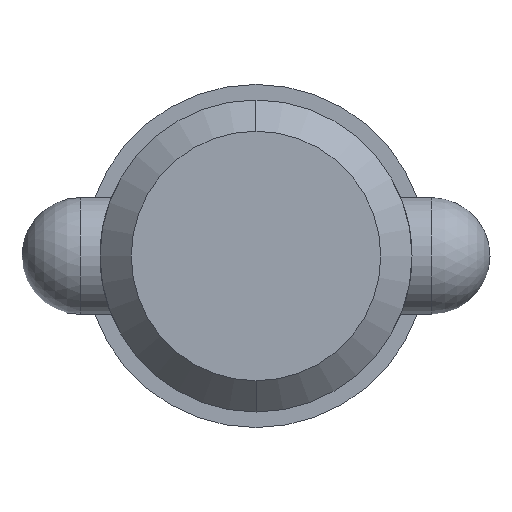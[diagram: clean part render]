
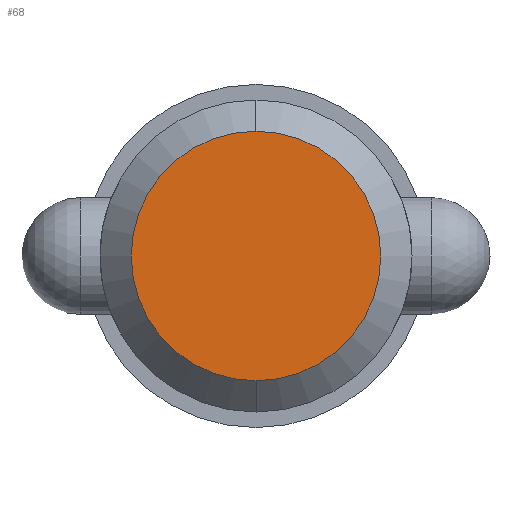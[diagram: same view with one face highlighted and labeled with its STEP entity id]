
A CAD part, left-side view. The second image highlights one B-rep face of the part: STEP entity #68.
In plain terms, the highlighted planar face has unit normal (-1, 0, 0).
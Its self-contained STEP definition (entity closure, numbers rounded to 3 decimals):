
#47 = AXIS2_PLACEMENT_3D ( 'NONE', #852, #1021, #600 ) ;
#68 = ADVANCED_FACE ( 'NONE', ( #159 ), #333, .T. ) ;
#81 = CARTESIAN_POINT ( 'NONE',  ( 0., 0., 0. ) ) ;
#143 = CIRCLE ( 'NONE', #902, 10.16 ) ;
#159 = FACE_OUTER_BOUND ( 'NONE', #779, .T. ) ;
#171 = DIRECTION ( 'NONE',  ( 1., 0., 0. ) ) ;
#311 = CARTESIAN_POINT ( 'NONE',  ( 0., 0., 10.16 ) ) ;
#333 = PLANE ( 'NONE',  #412 ) ;
#412 = AXIS2_PLACEMENT_3D ( 'NONE', #81, #669, #428 ) ;
#428 = DIRECTION ( 'NONE',  ( 0., 0., 1. ) ) ;
#435 = ORIENTED_EDGE ( 'NONE', *, *, #900, .F. ) ;
#542 = CARTESIAN_POINT ( 'NONE',  ( 0., 0., -10.16 ) ) ;
#600 = DIRECTION ( 'NONE',  ( 0., 0., -1. ) ) ;
#669 = DIRECTION ( 'NONE',  ( -1., 0., 0. ) ) ;
#779 = EDGE_LOOP ( 'NONE', ( #1037, #435 ) ) ;
#806 = VERTEX_POINT ( 'NONE', #311 ) ;
#817 = VERTEX_POINT ( 'NONE', #542 ) ;
#841 = DIRECTION ( 'NONE',  ( 0., 0., -1. ) ) ;
#852 = CARTESIAN_POINT ( 'NONE',  ( 0., 0., 0. ) ) ;
#900 = EDGE_CURVE ( 'NONE', #806, #817, #994, .T. ) ;
#902 = AXIS2_PLACEMENT_3D ( 'NONE', #924, #171, #841 ) ;
#924 = CARTESIAN_POINT ( 'NONE',  ( 0., 0., 0. ) ) ;
#994 = CIRCLE ( 'NONE', #47, 10.16 ) ;
#1004 = EDGE_CURVE ( 'NONE', #817, #806, #143, .T. ) ;
#1021 = DIRECTION ( 'NONE',  ( 1., 0., 0. ) ) ;
#1037 = ORIENTED_EDGE ( 'NONE', *, *, #1004, .F. ) ;
